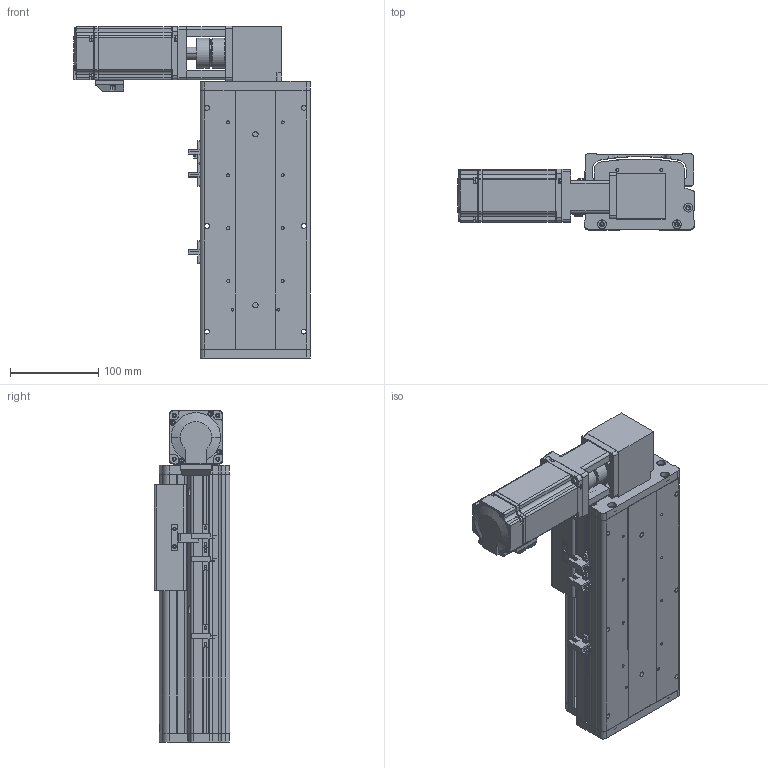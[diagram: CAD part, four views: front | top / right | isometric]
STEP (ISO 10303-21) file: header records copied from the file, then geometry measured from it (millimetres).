
FILE_DESCRIPTION (( 'STEP AP214' ), '1' );
FILE_NAME ('KSD125B-S100-MRT-CM.STEP', '2017-08-07T07:11:43', ( '微软用户' ), ( '微软中国' ), 'SwSTEP 2.0', 'SolidWorks 2014', '' );
FILE_SCHEMA (( 'AUTOMOTIVE_DESIGN' ));
Length unit declared in the file: millimetre
Products named in the file (16): MHMD042G1CA_2_03; KSD125模组同步带-防撞垫2; CS-34X32-10X14; 100遵鎮湛假蚾啣1 ; 覜茼え68遵圉猾敕; U倰嫖萇假蚾璃; U倰嫖萇EEㄜSX672; KSD125模组同步带-防撞垫1; 100宽安装板同步带带电机座400W,86; 100宽马达安装板同步带右; 前端板-125宽模组同步带; 125模组同步带-尾端板1; KSD125模组同步带-滑动座1; KSD125B-S100-MRT-CM; KSD125模组100行程同步带-防尘盖; 125模组100行程同步带-底板
Assembly tree (19 placements, depth 2):
  KSD125B-S100-MRT-CM
    KSD125模组同步带-滑动座1
    125模组同步带-尾端板1
    前端板-125宽模组同步带
    100宽马达安装板同步带右
    100宽安装板同步带带电机座400W,86
    KSD125模组同步带-防撞垫1
    U倰嫖萇EEㄜSX672  x3
    U倰嫖萇假蚾璃  x3
    覜茼え68遵圉猾敕
    100遵鎮湛假蚾啣1 
    CS-34X32-10X14
    KSD125模组同步带-防撞垫2
    MHMD042G1CA_2_03
    125模组100行程同步带-底板
    KSD125模组100行程同步带-防尘盖
Bounding box: 269 x 86 x 377 mm (x, y, z)
Volume: 1507567.9 mm3; surface area: 530605.8 mm2
Topology: 18 solids, 21 shells, 1584 faces, 4528 edges, 2984 vertices
Faces by surface type: cylinder 789, plane 692, cone 81, bspline 22
Entity records: 54984 total; most frequent: CARTESIAN_POINT 11210, DIRECTION 8023, ORIENTED_EDGE 7576, EDGE_CURVE 3866, AXIS2_PLACEMENT_3D 2949, VERTEX_POINT 2576, LINE 2125, VECTOR 2125
